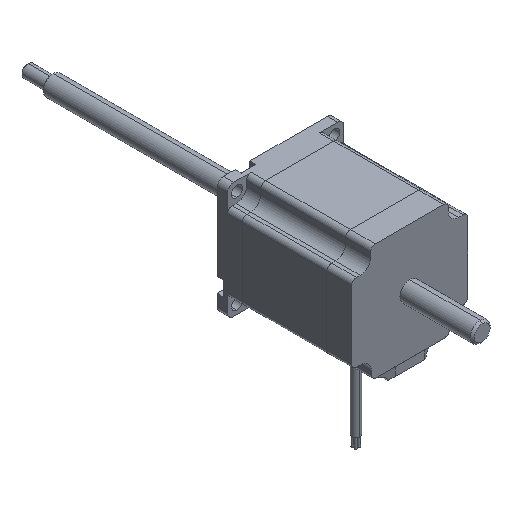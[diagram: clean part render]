
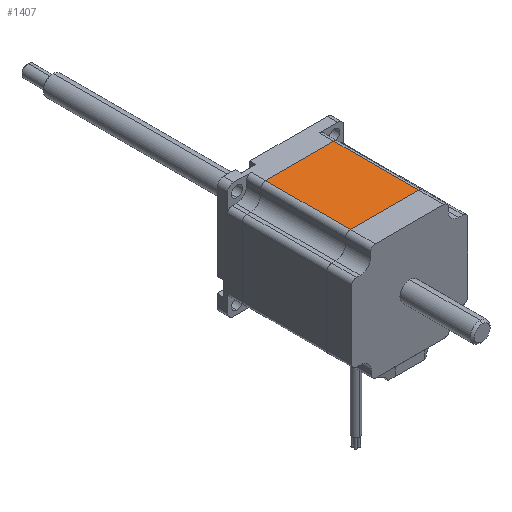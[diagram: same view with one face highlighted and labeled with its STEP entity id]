
A CAD part, isometric view. The second image highlights one B-rep face of the part: STEP entity #1407.
In plain terms, the highlighted planar face has unit normal (0, 0, 1).
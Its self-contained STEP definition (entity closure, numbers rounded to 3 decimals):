
#233 = VERTEX_POINT ( 'NONE', #312 ) ;
#270 = LINE ( 'NONE', #1051, #1855 ) ;
#312 = CARTESIAN_POINT ( 'NONE',  ( 16.3, -47.99, 28.1 ) ) ;
#535 = DIRECTION ( 'NONE',  ( 0., 0., -1. ) ) ;
#653 = FACE_OUTER_BOUND ( 'NONE', #6074, .T. ) ;
#1005 = CARTESIAN_POINT ( 'NONE',  ( -16.7, -7.001, 28.1 ) ) ;
#1051 = CARTESIAN_POINT ( 'NONE',  ( 16.3, -60., 28.1 ) ) ;
#1064 = LINE ( 'NONE', #2203, #4922 ) ;
#1090 = VERTEX_POINT ( 'NONE', #1825 ) ;
#1151 = DIRECTION ( 'NONE',  ( 1., 0., 0. ) ) ;
#1221 = AXIS2_PLACEMENT_3D ( 'NONE', #5062, #535, #5532 ) ;
#1407 = ADVANCED_FACE ( 'NONE', ( #653 ), #2160, .F. ) ;
#1526 = ORIENTED_EDGE ( 'NONE', *, *, #2114, .T. ) ;
#1567 = CARTESIAN_POINT ( 'NONE',  ( 25.1, -7.001, 28.1 ) ) ;
#1584 = EDGE_CURVE ( 'NONE', #4832, #3945, #1064, .T. ) ;
#1594 = ORIENTED_EDGE ( 'NONE', *, *, #1584, .F. ) ;
#1825 = CARTESIAN_POINT ( 'NONE',  ( 16.3, -7.001, 28.1 ) ) ;
#1855 = VECTOR ( 'NONE', #3497, 1000. ) ;
#1891 = LINE ( 'NONE', #1567, #4662 ) ;
#2023 = LINE ( 'NONE', #6455, #4385 ) ;
#2114 = EDGE_CURVE ( 'NONE', #233, #1090, #270, .T. ) ;
#2160 = PLANE ( 'NONE',  #1221 ) ;
#2203 = CARTESIAN_POINT ( 'NONE',  ( -16.7, -60., 28.1 ) ) ;
#3256 = EDGE_CURVE ( 'NONE', #3945, #1090, #1891, .T. ) ;
#3484 = CARTESIAN_POINT ( 'NONE',  ( -16.7, -47.99, 28.1 ) ) ;
#3497 = DIRECTION ( 'NONE',  ( 0., 1., 0. ) ) ;
#3945 = VERTEX_POINT ( 'NONE', #1005 ) ;
#4385 = VECTOR ( 'NONE', #5943, 1000. ) ;
#4662 = VECTOR ( 'NONE', #1151, 1000. ) ;
#4832 = VERTEX_POINT ( 'NONE', #3484 ) ;
#4922 = VECTOR ( 'NONE', #6264, 1000. ) ;
#5062 = CARTESIAN_POINT ( 'NONE',  ( 25.1, 5., 28.1 ) ) ;
#5532 = DIRECTION ( 'NONE',  ( -1., 0., 0. ) ) ;
#5590 = ORIENTED_EDGE ( 'NONE', *, *, #3256, .F. ) ;
#5794 = ORIENTED_EDGE ( 'NONE', *, *, #5949, .F. ) ;
#5943 = DIRECTION ( 'NONE',  ( -1., 0., 0. ) ) ;
#5949 = EDGE_CURVE ( 'NONE', #233, #4832, #2023, .T. ) ;
#6074 = EDGE_LOOP ( 'NONE', ( #5794, #1526, #5590, #1594 ) ) ;
#6264 = DIRECTION ( 'NONE',  ( 0., 1., 0. ) ) ;
#6455 = CARTESIAN_POINT ( 'NONE',  ( 25.1, -47.99, 28.1 ) ) ;
